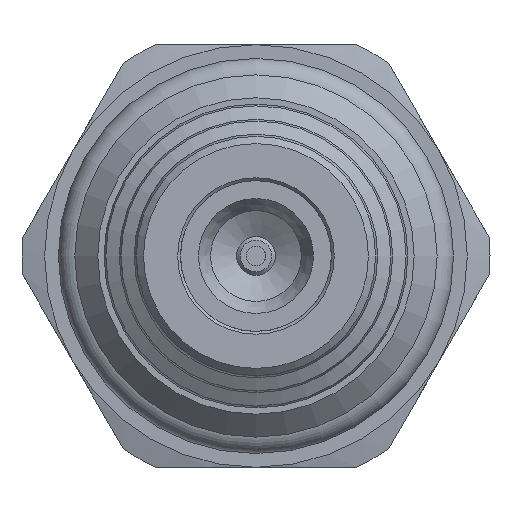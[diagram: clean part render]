
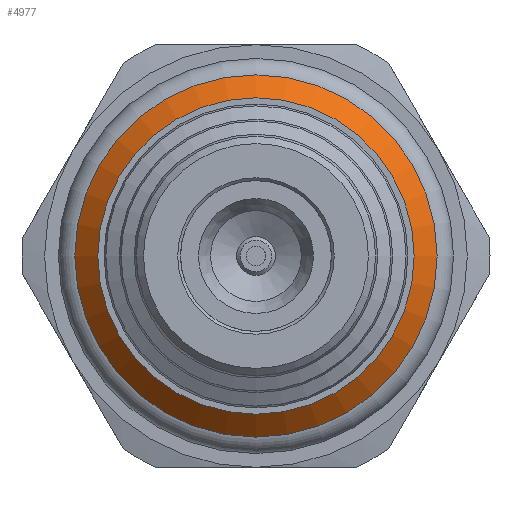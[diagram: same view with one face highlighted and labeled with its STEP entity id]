
A CAD part, front view. The second image highlights one B-rep face of the part: STEP entity #4977.
In plain terms, the highlighted conical face has half-angle 45 degrees and reference radius 8.922 mm.
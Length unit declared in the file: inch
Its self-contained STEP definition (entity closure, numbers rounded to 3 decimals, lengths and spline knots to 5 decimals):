
#183=CONICAL_SURFACE('',#5292,0.35125,0.785);
#400=LINE('',#7539,#575);
#575=VECTOR('',#6025,0.35125);
#861=FACE_OUTER_BOUND('',#1115,.T.);
#1115=EDGE_LOOP('',(#3230,#3231,#3232,#3233,#3234));
#1475=CIRCLE('',#5293,0.3275);
#1476=CIRCLE('',#5294,0.375);
#1477=CIRCLE('',#5295,0.375);
#1900=VERTEX_POINT('',#7536);
#1901=VERTEX_POINT('',#7538);
#1902=VERTEX_POINT('',#7540);
#2447=EDGE_CURVE('',#1900,#1900,#1475,.T.);
#2448=EDGE_CURVE('',#1900,#1901,#400,.T.);
#2449=EDGE_CURVE('',#1901,#1902,#1476,.T.);
#2450=EDGE_CURVE('',#1902,#1901,#1477,.T.);
#3230=ORIENTED_EDGE('',*,*,#2447,.T.);
#3231=ORIENTED_EDGE('',*,*,#2448,.T.);
#3232=ORIENTED_EDGE('',*,*,#2449,.T.);
#3233=ORIENTED_EDGE('',*,*,#2450,.T.);
#3234=ORIENTED_EDGE('',*,*,#2448,.F.);
#4977=ADVANCED_FACE('',(#861),#183,.T.);
#5292=AXIS2_PLACEMENT_3D('',#7535,#6021,#6022);
#5293=AXIS2_PLACEMENT_3D('',#7537,#6023,#6024);
#5294=AXIS2_PLACEMENT_3D('',#7541,#6026,#6027);
#5295=AXIS2_PLACEMENT_3D('',#7542,#6028,#6029);
#6021=DIRECTION('center_axis',(0.,1.,0.));
#6022=DIRECTION('ref_axis',(1.,0.,0.));
#6023=DIRECTION('center_axis',(0.,1.,0.));
#6024=DIRECTION('ref_axis',(1.,0.,0.));
#6025=DIRECTION('',(-0.707,0.707,0.));
#6026=DIRECTION('center_axis',(0.,-1.,0.));
#6027=DIRECTION('ref_axis',(1.,0.,0.));
#6028=DIRECTION('center_axis',(0.,-1.,0.));
#6029=DIRECTION('ref_axis',(1.,0.,0.));
#7535=CARTESIAN_POINT('Origin',(0.,-0.72625,0.));
#7536=CARTESIAN_POINT('',(-0.3275,-0.75,0.));
#7537=CARTESIAN_POINT('Origin',(0.,-0.75,0.));
#7538=CARTESIAN_POINT('',(-0.375,-0.7025,0.));
#7539=CARTESIAN_POINT('',(-0.35125,-0.72625,0.));
#7540=CARTESIAN_POINT('',(0.375,-0.7025,0.));
#7541=CARTESIAN_POINT('Origin',(0.,-0.7025,0.));
#7542=CARTESIAN_POINT('Origin',(0.,-0.7025,0.));
